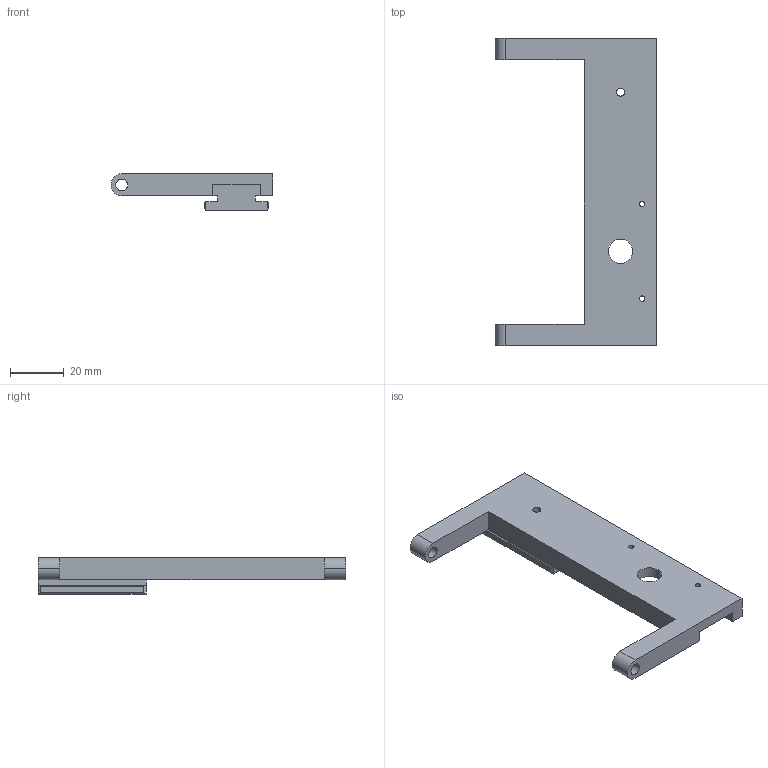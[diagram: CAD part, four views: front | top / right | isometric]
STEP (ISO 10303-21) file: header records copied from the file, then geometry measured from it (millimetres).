
FILE_DESCRIPTION((''),'2;1');
FILE_NAME('DISPLAY','2016-10-19T',('Tim'),(''),'CREO PARAMETRIC BY PTC INC, 2015380','CREO PARAMETRIC BY PTC INC, 2015380','');
FILE_SCHEMA(('CONFIG_CONTROL_DESIGN'));
Length unit declared in the file: millimetre
Products named in the file (1): DISPLAY
Bounding box: 60 x 114 x 13.5 mm (x, y, z)
Volume: 27528.2 mm3; surface area: 12798.2 mm2
Topology: 1 solids, 1 shells, 48 faces, 140 edges, 92 vertices
Faces by surface type: plane 32, cylinder 16
Entity records: 1650 total; most frequent: CARTESIAN_POINT 280, ORIENTED_EDGE 280, DIRECTION 272, EDGE_CURVE 140, VECTOR 104, LINE 104, VERTEX_POINT 92, AXIS2_PLACEMENT_3D 84
